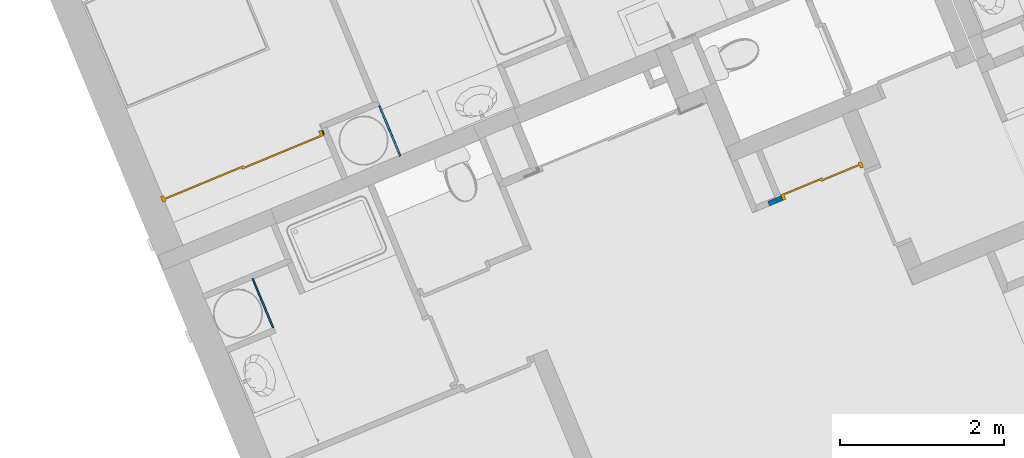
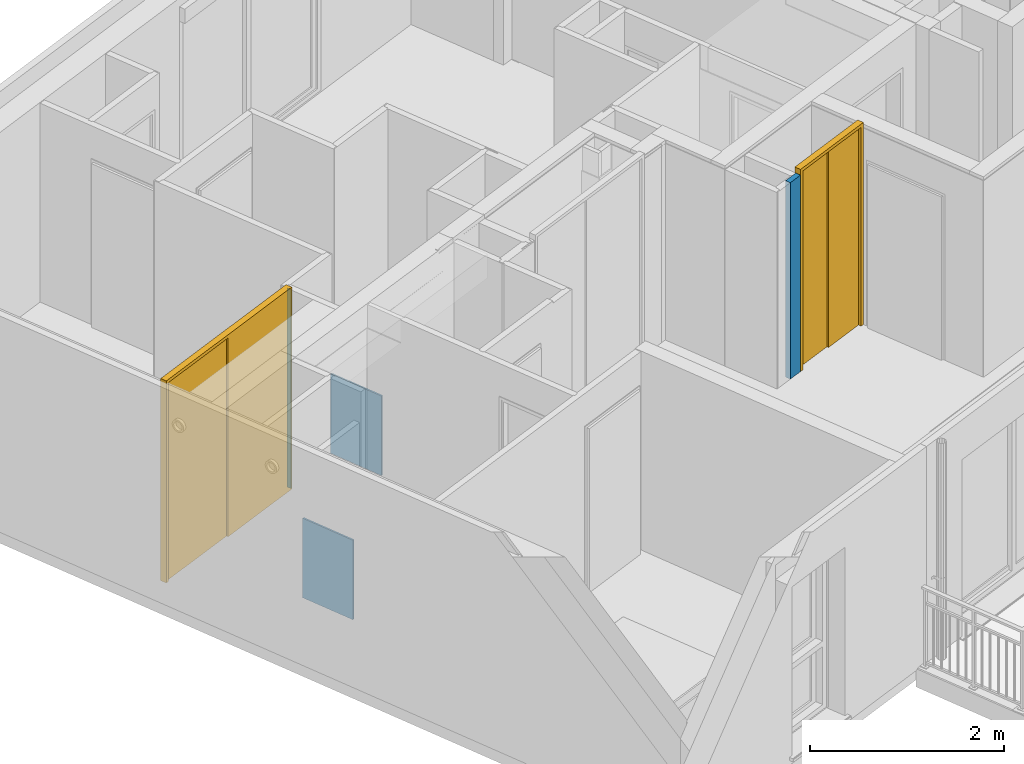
# One storey, part 1 of 90: 4 walls, 2 doors, 2 openings.
"""IFC2X3 building model written with IfcOpenShell, lengths in metres."""

from ifc_helpers import new_model, entity, si_unit, converted_unit, derived_unit, money_unit, direction, frame, origin_with_axes, place, context, subcontext, project, spatial, faceted_brep, source, transform, mapped, material, material_list, type_object, element, fill, save


model = new_model("IFC2X3")

# Units and contexts
model_context = context("Model", 3, precision=1e-05, world=origin_with_axes(), true_north=direction((0.0, 1.0)))
body_context = subcontext(model_context, "Body", "Model", "MODEL_VIEW")
ifc_project = project(units=[si_unit("LENGTHUNIT", "METRE"), si_unit("AREAUNIT", "SQUARE_METRE"), si_unit("VOLUMEUNIT", "CUBIC_METRE"), converted_unit("PLANEANGLEUNIT", "DEGREE", entity("IfcPlaneAngleMeasure", 0.0174532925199), si_unit("PLANEANGLEUNIT", "RADIAN"), dimensions=[0, 0, 0, 0, 0, 0, 0]), si_unit("SOLIDANGLEUNIT", "STERADIAN"), money_unit("EUR"), converted_unit("TIMEUNIT", "Year", entity("IfcTimeMeasure", 31556926.0), si_unit("TIMEUNIT", "SECOND"), dimensions=[0, 0, 1, 0, 0, 0, 0]), si_unit("MASSUNIT", "GRAM", prefix="KILO"), si_unit("THERMODYNAMICTEMPERATUREUNIT", "DEGREE_CELSIUS"), si_unit("LUMINOUSINTENSITYUNIT", "LUMEN"), si_unit("ENERGYUNIT", "JOULE", prefix="MEGA"), derived_unit("THERMALCONDUCTANCEUNIT", [(si_unit("POWERUNIT", "WATT"), 1), (si_unit("LENGTHUNIT", "METRE"), -1), (si_unit("THERMODYNAMICTEMPERATUREUNIT", "KELVIN"), -1)]), derived_unit("SPECIFICHEATCAPACITYUNIT", [(si_unit("ENERGYUNIT", "JOULE"), 1), (si_unit("MASSUNIT", "GRAM", prefix="KILO"), -1), (si_unit("THERMODYNAMICTEMPERATUREUNIT", "KELVIN"), -1)]), derived_unit("MASSDENSITYUNIT", [(si_unit("MASSUNIT", "GRAM", prefix="KILO"), 1), (si_unit("VOLUMEUNIT", "CUBIC_METRE"), -1)])], contexts=[model_context])

# Site, building, storey
site_placement = place(None, origin_with_axes())
site = spatial("IfcSite", under=ifc_project, at=site_placement, Name="Site", CompositionType="ELEMENT")
building_placement = place(site_placement, origin_with_axes())
building = spatial("IfcBuilding", under=site, at=building_placement, Name="Bâtiment", CompositionType="ELEMENT")
storey_placement = place(building_placement, frame((0.0, 0.0, 2.72), z_axis=(0.0, 0.0, 1.0), x_axis=(1.0, 0.0, 0.0)))
storey = spatial("IfcBuildingStorey", under=building, at=storey_placement, Name="R+1", CompositionType="ELEMENT", Elevation=2.72)

# Wall, opening, door
ifc_material_1 = material(Name="Isolation - Laine de roche")
ifc_material_2 = material(Name="Finition int - Plaque de plâtre")
ifc_material_list = material_list([ifc_material_1, ifc_material_2])
wall_type_1 = type_object("IfcWallType", Name="3 - Cloison 72mm Placostil 74", PredefinedType="USERDEFINED")
wall_1_placement = place(storey_placement, frame((-25.9133227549, -21.9281125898, 0.0), z_axis=(0.0, 0.0, 1.0), x_axis=(0.92370167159, 0.383112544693, 0.0)))
wall_1 = element("IfcWall", 1, at=wall_1_placement, inside=storey, type_object=wall_type_1, material=ifc_material_list, Name="Cloison Placostil 72/48", ObjectType="PARTITIONING", context=body_context, shape_type="Brep", body=[
    faceted_brep([(0.0739999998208, 0.013, 0.0), (0.0739999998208, 0.013, 2.47), (-0.100000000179, 0.013, 2.47), (-0.100000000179, 0.013, 0.0), (0.0739999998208, 0.061, 2.47), (0.0739999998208, 0.061, 0.0), (-0.100000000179, 0.061, 2.47), (-0.100000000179, 0.061, 0.0)], [[[0, 1, 2, 3]], [[4, 1, 0, 5]], [[1, 4, 6, 2]], [[6, 7, 3, 2]], [[5, 0, 3, 7]], [[4, 5, 7, 6]]]),
    faceted_brep([(0.0739999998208, 0.0, 0.0), (0.0739999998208, 0.0, 2.47), (-0.100000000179, 0.0, 2.47), (-0.100000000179, 0.0, 0.0), (0.0739999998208, 0.013, 2.47), (0.0739999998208, 0.013, 0.0), (-0.100000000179, 0.013, 2.47), (-0.100000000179, 0.013, 0.0)], [[[0, 1, 2, 3]], [[4, 1, 0, 5]], [[1, 4, 6, 2]], [[6, 7, 3, 2]], [[5, 0, 3, 7]], [[4, 5, 7, 6]]]),
])
opening_1_placement = place(wall_1_placement, frame((0.606000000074, 0.0, 0.0), z_axis=(0.0, 0.0, 1.0), x_axis=(1.0, 0.0, 0.0)))
opening_1 = element("IfcOpeningElement", 2, at=opening_1_placement, cuts=wall_1, Name="Por-002", context=body_context, shape_type="Brep", body=[
    faceted_brep([(-0.532000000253, 0.074, 0.0), (0.532000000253, 0.074, 0.0), (0.532000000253, -0.074, 0.0), (-0.532000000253, -0.074, 0.0), (-0.532000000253, 0.074, 2.54), (0.532000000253, 0.074, 2.54), (0.532000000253, -0.074, 2.54), (-0.532000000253, -0.074, 2.54)], [[[0, 1, 2, 3]], [[0, 4, 5, 1]], [[1, 5, 6, 2]], [[3, 2, 6, 7]], [[4, 0, 3, 7]], [[5, 4, 7, 6]]]),
])
door_style = type_object("IfcDoorStyle", Name="Porte int générique 2019", ConstructionType="NOTDEFINED", OperationType="USERDEFINED", ParameterTakesPrecedence=False, Sizeable=False)
shared_shape_1 = source(origin_with_axes(), body_context, "Body", "Brep", [
    faceted_brep([(-0.532000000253, 0.0, 0.0), (-0.532000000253, 0.0, 2.54), (0.532000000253, 0.0, 2.54), (0.532000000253, 0.0, 0.0), (0.492000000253, 0.0, 0.0), (0.492000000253, 0.0, 2.5), (-0.492000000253, 0.0, 2.5), (-0.492000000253, 0.0, 0.0), (-0.532000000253, -0.074, 0.0), (-0.532000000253, -0.074, 2.54), (0.532000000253, -0.074, 2.54), (0.532000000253, -0.074, 0.0), (0.492000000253, -0.074, 0.0), (0.492000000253, -0.074, 2.5), (-0.492000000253, -0.074, 2.5), (-0.492000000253, -0.074, 0.0)], [[[0, 1, 2, 3, 4, 5, 6, 7]], [[8, 9, 1, 0]], [[9, 10, 2, 1]], [[10, 11, 3, 2]], [[3, 11, 12, 4]], [[5, 4, 12, 13]], [[6, 5, 13, 14]], [[7, 6, 14, 15]], [[0, 7, 15, 8]], [[15, 14, 13, 12, 11, 10, 9, 8]]]),
    faceted_brep([(-0.492000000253, 0.0, 0.0), (0.015, 0.0, 0.0), (0.015, -0.02, 0.0), (-0.492000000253, -0.02, 0.0), (-0.492000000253, 0.0, 2.5), (0.015, 0.0, 2.5), (0.015, -0.02, 2.5), (-0.492000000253, -0.02, 2.5)], [[[0, 1, 2, 3]], [[0, 4, 5, 1]], [[1, 5, 6, 2]], [[3, 2, 6, 7]], [[4, 0, 3, 7]], [[5, 4, 7, 6]]]),
    faceted_brep([(-0.015, -0.02, 0.0), (0.492000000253, -0.02, 0.0), (0.492000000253, -0.04, 0.0), (-0.015, -0.04, 0.0), (-0.015, -0.02, 2.5), (0.492000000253, -0.02, 2.5), (0.492000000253, -0.04, 2.5), (-0.015, -0.04, 2.5)], [[[0, 1, 2, 3]], [[0, 4, 5, 1]], [[1, 5, 6, 2]], [[3, 2, 6, 7]], [[4, 0, 3, 7]], [[5, 4, 7, 6]]]),
])
door_1_placement = place(opening_1_placement, frame((-0.492000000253, 0.0, 0.0), z_axis=(0.0, 0.0, 1.0), x_axis=(1.0, 0.0, 0.0)))
door_1 = element("IfcDoor", 3, at=door_1_placement, inside=storey, type_object=door_style, Name="Por-002", ObjectType="DOOR", OverallHeight=2.5, OverallWidth=0.984, context=body_context, shape_type="MappedRepresentation", body=[
    mapped(shared_shape_1, transform((0.492000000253, 0.074, 0.0))),
])
fill(opening_1, door_1)

wall_2_placement = place(storey_placement, frame((-31.467284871, -21.0401555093, 0.0), z_axis=(0.0, 0.0, 1.0), x_axis=(-0.923701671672, -0.383112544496, 0.0)))
wall_2 = element("IfcWall", 4, at=wall_2_placement, inside=storey, type_object=wall_type_1, material=ifc_material_1, Name="Cloison Placostil 72/48", ObjectType="PARTITIONING", context=body_context, shape_type="Brep", body=[
    faceted_brep([(0.0, 0.013, 2.5), (0.0, 0.061, 2.5), (-0.013000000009, 0.061, 2.5), (-0.0130000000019, 0.013, 2.5), (0.0, 0.061, 0.0), (0.0, 0.013, 0.0), (-0.013000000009, 0.061, 0.0), (-0.0130000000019, 0.013, 0.0)], [[[0, 1, 2, 3]], [[4, 1, 0, 5]], [[1, 4, 6, 2]], [[6, 7, 3, 2]], [[5, 0, 3, 7]], [[4, 5, 7, 6]]]),
])
opening_2_placement = place(wall_2_placement, frame((1.06249999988, 0.0, 0.0), z_axis=(0.0, 0.0, 1.0), x_axis=(1.0, 0.0, 0.0)))
opening_2 = element("IfcOpeningElement", 5, at=opening_2_placement, cuts=wall_2, Name="Por-002", context=body_context, shape_type="Brep", body=[
    faceted_brep([(-1.06249999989, 0.074, 0.0), (1.06249999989, 0.074, 0.0), (1.06249999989, -0.074, 0.0), (-1.06249999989, -0.074, 0.0), (-1.06249999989, 0.074, 2.54), (1.06249999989, 0.074, 2.54), (1.06249999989, -0.074, 2.54), (-1.06249999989, -0.074, 2.54)], [[[0, 1, 2, 3]], [[0, 4, 5, 1]], [[1, 5, 6, 2]], [[3, 2, 6, 7]], [[4, 0, 3, 7]], [[5, 4, 7, 6]]]),
])
shared_shape_2 = source(origin_with_axes(), body_context, "Body", "Brep", [
    faceted_brep([(-1.06249999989, 0.0, 0.0), (-1.06249999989, 0.0, 2.54), (1.06249999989, 0.0, 2.54), (1.06249999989, 0.0, 0.0), (1.02249999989, 0.0, 0.0), (1.02249999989, 0.0, 2.5), (-1.02249999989, 0.0, 2.5), (-1.02249999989, 0.0, 0.0), (-1.06249999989, -0.074, 0.0), (-1.06249999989, -0.074, 2.54), (1.06249999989, -0.074, 2.54), (1.06249999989, -0.074, 0.0), (1.02249999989, -0.074, 0.0), (1.02249999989, -0.074, 2.5), (-1.02249999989, -0.074, 2.5), (-1.02249999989, -0.074, 0.0)], [[[0, 1, 2, 3, 4, 5, 6, 7]], [[8, 9, 1, 0]], [[9, 10, 2, 1]], [[10, 11, 3, 2]], [[3, 11, 12, 4]], [[5, 4, 12, 13]], [[6, 5, 13, 14]], [[7, 6, 14, 15]], [[0, 7, 15, 8]], [[15, 14, 13, 12, 11, 10, 9, 8]]]),
    faceted_brep([(-1.02249999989, 0.0, 0.0), (0.015, 0.0, 0.0), (0.015, -0.02, 0.0), (-1.02249999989, -0.02, 0.0), (-1.02249999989, 0.0, 2.5), (0.015, 0.0, 2.5), (0.015, -0.02, 2.5), (-1.02249999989, -0.02, 2.5)], [[[0, 1, 2, 3]], [[0, 4, 5, 1]], [[1, 5, 6, 2]], [[3, 2, 6, 7]], [[4, 0, 3, 7]], [[5, 4, 7, 6]]]),
    faceted_brep([(-0.015, -0.02, 0.0), (1.02249999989, -0.02, 0.0), (1.02249999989, -0.04, 0.0), (-0.015, -0.04, 0.0), (-0.015, -0.02, 2.5), (1.02249999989, -0.02, 2.5), (1.02249999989, -0.04, 2.5), (-0.015, -0.04, 2.5)], [[[0, 1, 2, 3]], [[0, 4, 5, 1]], [[1, 5, 6, 2]], [[3, 2, 6, 7]], [[4, 0, 3, 7]], [[5, 4, 7, 6]]]),
])
door_2_placement = place(opening_2_placement, frame((-1.02249999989, 0.0, 0.0), z_axis=(0.0, 0.0, 1.0), x_axis=(1.0, 0.0, 0.0)))
door_2 = element("IfcDoor", 6, at=door_2_placement, inside=storey, type_object=door_style, Name="Por-002", ObjectType="DOOR", OverallHeight=2.5, OverallWidth=2.045, context=body_context, shape_type="MappedRepresentation", body=[
    mapped(shared_shape_2, transform((1.02249999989, 0.074, 0.0))),
])
fill(opening_2, door_2)

# Walls
ifc_material_3 = material(Name="Bois - Mélaminé blanc")
wall_type_2 = type_object("IfcWallType", Name="Bois - Mélaminé blanc 20", PredefinedType="USERDEFINED")
wall_3_placement = place(storey_placement, frame((-32.0498080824, -23.4465563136, 0.0), z_axis=(0.0, 0.0, 1.0), x_axis=(-0.383112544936, 0.92370167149, 0.0)))
element("IfcWall", 7, at=wall_3_placement, inside=storey, type_object=wall_type_2, material=ifc_material_3, Name="Panneaux 20mm mélaminé blanc", ObjectType="PARTITIONING", context=body_context, shape_type="Brep", body=[
    faceted_brep([(0.0, 0.02, 0.0), (0.649624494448, 0.02, 0.0), (0.649624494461, 0.0, 0.0), (0.0, 0.0, 0.0), (0.0, 0.02, 1.0), (0.649624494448, 0.02, 1.0), (0.649624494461, 0.0, 1.0), (0.0, 0.0, 1.0)], [[[0, 1, 2, 3]], [[4, 5, 1, 0]], [[6, 2, 1, 5]], [[3, 2, 6, 7]], [[7, 4, 0, 3]], [[7, 6, 5, 4]]]),
])
wall_4_placement = place(storey_placement, frame((-30.7523397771, -20.7436263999, 0.0), z_axis=(0.0, 0.0, 1.0), x_axis=(0.383112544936, -0.92370167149, 0.0)))
element("IfcWall", 8, at=wall_4_placement, inside=storey, type_object=wall_type_2, material=ifc_material_3, Name="Panneaux 20mm mélaminé blanc", ObjectType="PARTITIONING", context=body_context, shape_type="Brep", body=[
    faceted_brep([(0.0, -0.02, 1.0), (0.659999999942, -0.02, 1.0), (0.659999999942, 0.0, 1.0), (0.0, 0.0, 1.0), (0.0, -0.02, 0.0), (0.659999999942, -0.02, 0.0), (0.659999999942, 0.0, 0.0), (0.0, 0.0, 0.0)], [[[0, 1, 2, 3]], [[4, 5, 1, 0]], [[6, 2, 1, 5]], [[3, 2, 6, 7]], [[7, 4, 0, 3]], [[7, 6, 5, 4]]]),
])

save(model, "model.ifc")
